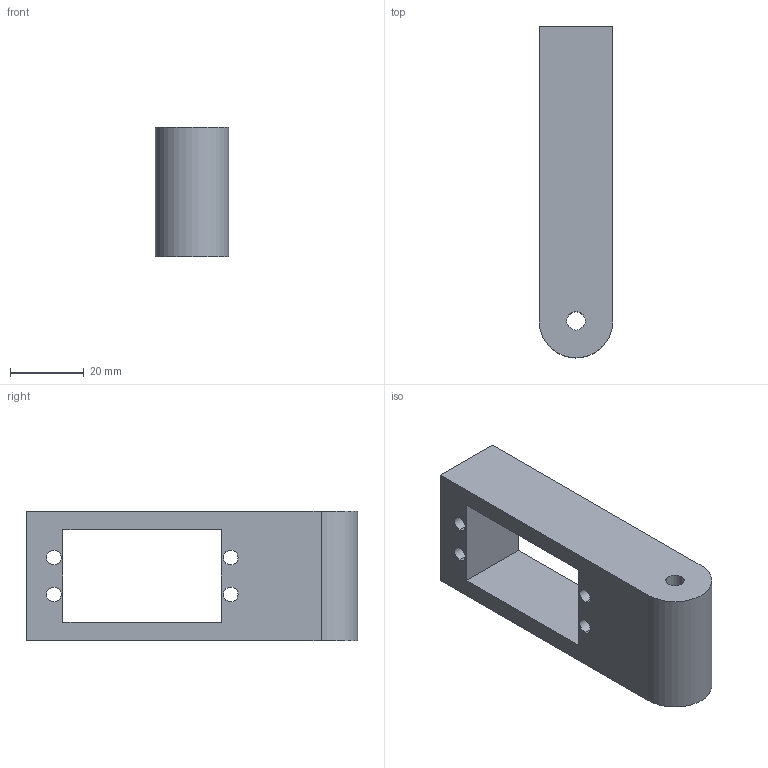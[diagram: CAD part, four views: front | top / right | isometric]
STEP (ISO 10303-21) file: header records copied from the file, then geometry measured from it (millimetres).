
FILE_DESCRIPTION (( 'STEP AP214' ), '1' );
FILE_NAME ('arm.STEP', '2026-10-09T20:53:53', ( '' ), ( '' ), 'SwSTEP 2.0', 'SolidWorks 2026', '' );
FILE_SCHEMA (( 'AUTOMOTIVE_DESIGN' ));
Length unit declared in the file: millimetre
Products named in the file (1): arm
Bounding box: 20 x 90 x 35 mm (x, y, z)
Volume: 38305.3 mm3; surface area: 12899 mm2
Topology: 1 solids, 1 shells, 20 faces, 54 edges, 36 vertices
Faces by surface type: cylinder 11, plane 9
Entity records: 687 total; most frequent: DIRECTION 118, CARTESIAN_POINT 111, ORIENTED_EDGE 108, EDGE_CURVE 54, AXIS2_PLACEMENT_3D 43, VERTEX_POINT 36, EDGE_LOOP 32, VECTOR 32
